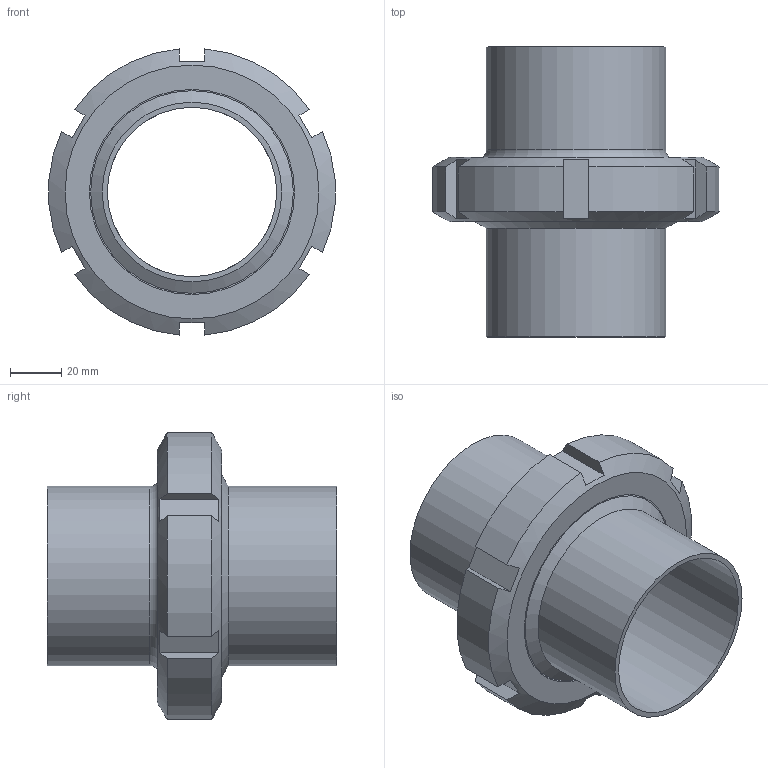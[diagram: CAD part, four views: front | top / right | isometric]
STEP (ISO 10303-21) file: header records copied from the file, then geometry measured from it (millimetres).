
FILE_DESCRIPTION(/* description */ ('Aseptik_Rohrverbindung_DIN 11864-1-A_70x2_L113'),/* implementation_level */ '2;1');
FILE_NAME(/* name */ 'L:\Normteile\N0024 - Rohrverbindungen\N0024_002 - DIN11864\N0024_002_001 - geschraubt\N0024_002_001\Step Marketing\DIN11864-1-A_70x2_L113.stp',/* time_stamp */ '2021-08-31T10:20:47+02:00',/* author */ ('Csasse'),/* organization */ ('Dockweiler AG'),/* preprocessor_version */ 'ST-DEVELOPER v18',/* originating_system */ 'Autodesk Inventor 2020',/* authorisation */ '');
FILE_SCHEMA (('AUTOMOTIVE_DESIGN { 1 0 10303 214 3 1 1 }'));
Length unit declared in the file: millimetre
Products named in the file (5): N0024_002_001_36; N0003_007_001_08; N0003_007_002_08; N0005_005_002_001_07; N0009_009_18
Assembly tree (4 placements, depth 2):
  N0024_002_001_36
    N0003_007_001_08
    N0003_007_002_08
    N0005_005_002_001_07
    N0009_009_18
Bounding box: 111.58 x 113 x 111.55 mm (x, y, z)
Volume: 188512.1 mm3; surface area: 92333 mm2
Topology: 4 solids, 4 shells, 68 faces, 200 edges, 144 vertices
Faces by surface type: plane 30, cylinder 16, torus 12, cone 10
Full cylindrical faces by diameter (mm): 66 x2, 70 x2, 79 x1, 80 x1, 84.9 x1, 85 x1, 90.767 x1, 95.423 x1
Entity records: 2600 total; most frequent: CARTESIAN_POINT 497, DIRECTION 434, ORIENTED_EDGE 400, EDGE_CURVE 200, AXIS2_PLACEMENT_3D 195, VERTEX_POINT 144, CIRCLE 118, EDGE_LOOP 80
